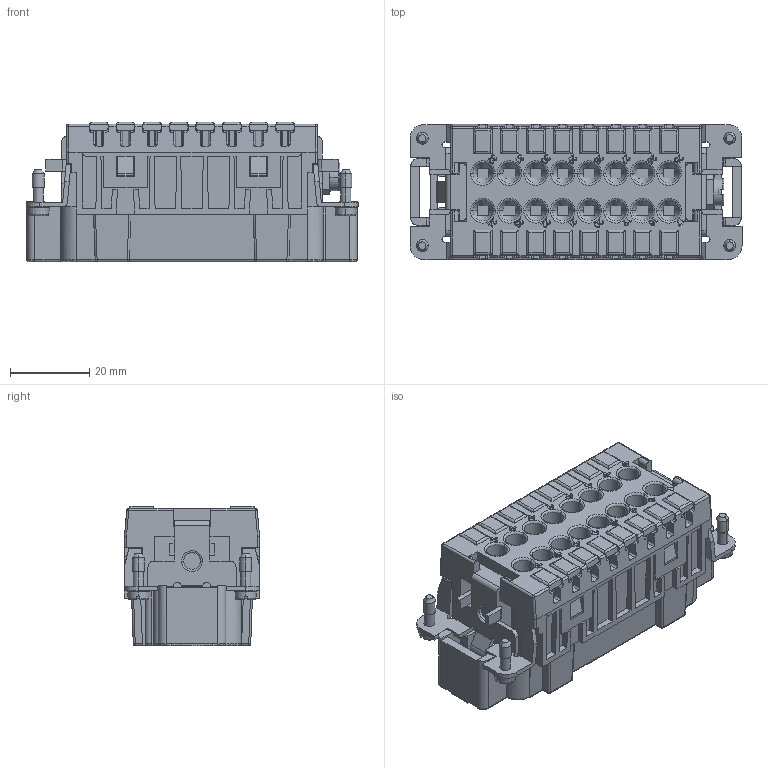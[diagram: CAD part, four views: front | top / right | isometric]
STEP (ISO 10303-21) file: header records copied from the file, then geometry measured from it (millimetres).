
FILE_DESCRIPTION (( 'STEP AP214' ), '1' );
FILE_NAME ('CSHM-16N.STEP', '2016-01-12T20:31:52', ( 'Mencom User' ), ( 'Hewlett-Packard Company' ), 'SwSTEP 2.0', 'SolidWorks 2015', '' );
FILE_SCHEMA (( 'AUTOMOTIVE_DESIGN' ));
Length unit declared in the file: inch
Products named in the file (1): CSHM-16N
Bounding box: 83.6 x 34 x 35.1 mm (x, y, z)
Volume: 48244.4 mm3; surface area: 28876.7 mm2
Topology: 1 solids, 4 shells, 2772 faces, 7511 edges, 4858 vertices
Faces by surface type: plane 1556, cylinder 526, bspline 514, cone 144, torus 32
Entity records: 146938 total; most frequent: CARTESIAN_POINT 56658, ORIENTED_EDGE 14990, DIRECTION 10810, EDGE_CURVE 7495, VECTOR 4898, LINE 4898, VERTEX_POINT 4856, EDGE_LOOP 2967
